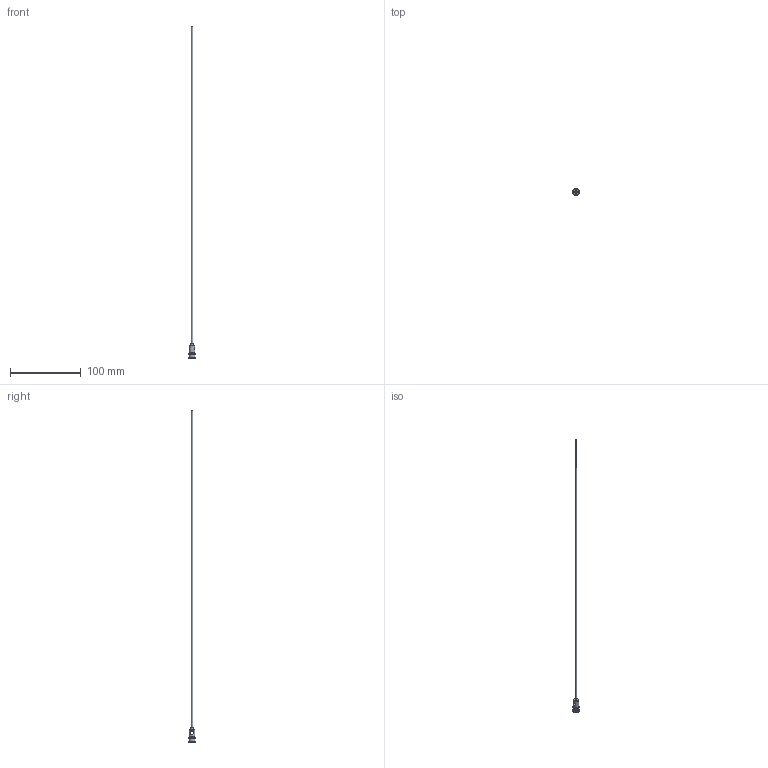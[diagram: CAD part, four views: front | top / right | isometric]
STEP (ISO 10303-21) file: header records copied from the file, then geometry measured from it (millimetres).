
FILE_DESCRIPTION(/* description */ (''),/* implementation_level */ '2;1');
FILE_NAME(/* name */ 'RFP-8_2x0.25x450',/* time_stamp */ '2005-07-25T17:12:48+02:00',/* author */ (''),/* organization */ (''),/* preprocessor_version */ 'ST-DEVELOPER v9',/* originating_system */ 'EDS PLM SOLUTIONS - UNIGRAPHICS NX 1.0',/* authorisation */ '');
FILE_SCHEMA (('CONFIG_CONTROL_DESIGN'));
Length unit declared in the file: millimetre
Products named in the file (1): Admi3EDE00h6
Bounding box: 9.8 x 9.8 x 468.1 mm (x, y, z)
Volume: 1381.9 mm3; surface area: 6048.5 mm2
Topology: 4 solids, 4 shells, 51 faces, 117 edges, 73 vertices
Faces by surface type: plane 28, cylinder 14, cone 7, torus 2
Full cylindrical faces by diameter (mm): 1.5 x1, 2 x1, 2.05 x2, 3 x1, 5.4 x2, 5.5 x1, 6.5 x1, 8.35 x1, 8.4 x2, 9.8 x1
Entity records: 1522 total; most frequent: CARTESIAN_POINT 439, DIRECTION 202, ORIENTED_EDGE 168, AXIS2_PLACEMENT_3D 85, EDGE_CURVE 84, EDGE_LOOP 79, VERTEX_POINT 66, ADVANCED_FACE 51
